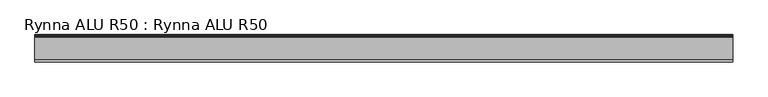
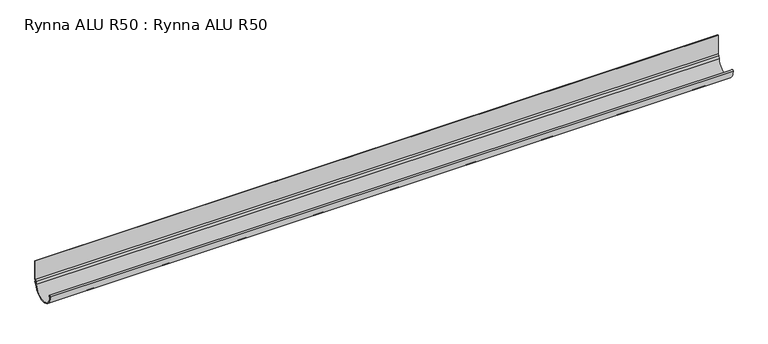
"""IFC4 building model written with IfcOpenShell, lengths in millimetres: proxy geometry, Rynna ALU R50 : Rynna ALU R50."""

import ifcopenshell
import ifcopenshell.guid

model = None  # the IFC model being written
_history = None  # IfcOwnerHistory: only IFC2X3 demands one
_inside = {}  # id of a spatial element -> (the spatial element, [elements in it])
_under = {}  # id of a project, library or spatial element -> (it, [spatial elements below it])
_declared = {}  # id of a project -> (the project, [libraries it declares])
_typed = {}  # id of a type object -> (the type object, [elements of that type])
_made_of = {}  # id of a material, layer set ... -> (it, [elements and type objects made of it])


def new_model(schema):
    """Start an empty IFC model of exactly this schema.

    Asked for "IFC4X3", IfcOpenShell would pick the latest addendum, in which some entities
    have other attributes; the version numbers below select the first issue.
    IFC2X3 requires an IfcOwnerHistory on every rooted entity: one is made here for all.
    """
    global model, _history
    if schema == "IFC4X3":
        model = ifcopenshell.file(schema_version=(4, 3, 0, 0))
    else:
        model = ifcopenshell.file(schema=schema)
    _inside.clear()
    _under.clear()
    _declared.clear()
    _typed.clear()
    _made_of.clear()
    _history = None
    if model.schema == "IFC2X3":
        org = make("IfcOrganization", Name="unknown")
        user = make(
            "IfcPersonAndOrganization",
            ThePerson=make("IfcPerson", FamilyName="unknown"),
            TheOrganization=org,
        )
        app = make(
            "IfcApplication",
            ApplicationDeveloper=org,
            Version="unknown",
            ApplicationFullName="unknown",
            ApplicationIdentifier="unknown",
        )
        _history = make(
            "IfcOwnerHistory",
            OwningUser=user,
            OwningApplication=app,
            ChangeAction="ADDED",
            CreationDate=0,
        )
    return model


def make(cls, **values):
    """One entity of the class cls with the attributes given. An attribute that is None is left unset."""
    return model.create_entity(
        cls, **{name: value for name, value in values.items() if value is not None}
    )


def rooted(cls, **values):
    """An entity with a GlobalId (a new one), such as an element, a storey or a relation."""
    return make(cls, GlobalId=ifcopenshell.guid.new(), OwnerHistory=_history, **values)


def si_unit(unit_type, name, prefix=None):
    """IfcSIUnit, for example si_unit("LENGTHUNIT", "METRE", prefix="MILLI")."""
    return make("IfcSIUnit", UnitType=unit_type, Prefix=prefix, Name=name)


def assignment(units):
    """IfcUnitAssignment: the units of a project."""
    return None if units is None else make("IfcUnitAssignment", Units=units)


def point(xyz):
    """IfcCartesianPoint."""
    return None if xyz is None else make("IfcCartesianPoint", Coordinates=xyz)


def direction(xyz):
    """IfcDirection."""
    return None if xyz is None else make("IfcDirection", DirectionRatios=xyz)


def frame(location, z_axis=None, x_axis=None):
    """IfcAxis2Placement3D, a coordinate frame: its origin and axes. An axis left out is left unset."""
    return make(
        "IfcAxis2Placement3D",
        Location=point(location),
        Axis=direction(z_axis),
        RefDirection=direction(x_axis),
    )


def frame_2d(location, x_axis=None):
    """IfcAxis2Placement2D, a coordinate frame in the plane: its origin and x axis."""
    return make(
        "IfcAxis2Placement2D", Location=point(location), RefDirection=direction(x_axis)
    )


def origin():
    """The frame at (0, 0, 0) with its axes left unset."""
    return frame((0.0, 0.0, 0.0))


def place(relative_to, where):
    """IfcLocalPlacement: puts the frame where relative to a parent placement (None: the world)."""
    return make(
        "IfcLocalPlacement", PlacementRelTo=relative_to, RelativePlacement=where
    )


def context(
    kind, dimensions, precision=None, world=None, true_north=None, identifier=None
):
    """IfcGeometricRepresentationContext, for example the 3D "Model" context."""
    return make(
        "IfcGeometricRepresentationContext",
        ContextIdentifier=identifier,
        ContextType=kind,
        CoordinateSpaceDimension=dimensions,
        Precision=precision,
        WorldCoordinateSystem=world,
        TrueNorth=true_north,
    )


def project(units=None, contexts=None):
    """IfcProject with its units and contexts."""
    return rooted(
        "IfcProject",
        Name="project",
        RepresentationContexts=contexts,
        UnitsInContext=assignment(units),
    )


def spatial(cls, under=None, at=None, **own):
    """A site, building, storey or space (cls), placed at a placement, below another one or the project."""
    s = rooted(cls, ObjectPlacement=at, **own)
    if under is not None:
        _under.setdefault(under.id(), (under, []))[1].append(s)
    return s


def polyline(points):
    """IfcPolyline through the points."""
    return make("IfcPolyline", Points=[point(p) for p in points])


def circle_curve(where, radius):
    """IfcCircle in the frame where."""
    return make("IfcCircle", Position=where, Radius=radius)


def trimmed(basis, trim1, trim2, sense, master):
    """IfcTrimmedCurve: the piece of a basis curve between two trims."""
    return make(
        "IfcTrimmedCurve",
        BasisCurve=basis,
        Trim1=trim1,
        Trim2=trim2,
        SenseAgreement=sense,
        MasterRepresentation=master,
    )


def segment(curve, same_sense, transition):
    """IfcCompositeCurveSegment."""
    return make(
        "IfcCompositeCurveSegment",
        Transition=transition,
        SameSense=same_sense,
        ParentCurve=curve,
    )


def composite_curve(segments, self_intersect=None):
    """IfcCompositeCurve: segments joined end to end."""
    return make("IfcCompositeCurve", Segments=segments, SelfIntersect=self_intersect)


def outline(outer, holes=None, kind="AREA"):
    """IfcArbitraryClosedProfileDef: a profile drawn as a closed curve; with holes, ...WithVoids."""
    if holes is None:
        return make("IfcArbitraryClosedProfileDef", ProfileType=kind, OuterCurve=outer)
    return make(
        "IfcArbitraryProfileDefWithVoids",
        ProfileType=kind,
        OuterCurve=outer,
        InnerCurves=holes,
    )


def extrude(swept, where, along, depth):
    """IfcExtrudedAreaSolid: the profile swept, set in the frame where, extruded along a direction by depth."""
    return make(
        "IfcExtrudedAreaSolid",
        SweptArea=swept,
        Position=where,
        ExtrudedDirection=direction(along),
        Depth=depth,
    )


def shape(context_of_items, identifier, shape_type, items):
    """IfcShapeRepresentation: the items that make up one representation, for example the "Body"."""
    return make(
        "IfcShapeRepresentation",
        ContextOfItems=context_of_items,
        RepresentationIdentifier=identifier,
        RepresentationType=shape_type,
        Items=items,
    )


def source(mapping_origin, context_of_items, identifier, shape_type, items):
    """IfcRepresentationMap: a shape defined once, which mapped items show again and again."""
    return make(
        "IfcRepresentationMap",
        MappingOrigin=mapping_origin,
        MappedRepresentation=shape(context_of_items, identifier, shape_type, items),
    )


def transform(
    local_origin,
    x_axis=None,
    y_axis=None,
    z_axis=None,
    scale=None,
    scale2=None,
    scale3=None,
    uniform=True,
):
    """IfcCartesianTransformationOperator3D, or its non-uniform kind. x_axis, y_axis, z_axis: its Axis1, 2, 3."""
    if uniform:
        return make(
            "IfcCartesianTransformationOperator3D",
            Axis1=direction(x_axis),
            Axis2=direction(y_axis),
            LocalOrigin=point(local_origin),
            Scale=scale,
            Axis3=direction(z_axis),
        )
    return make(
        "IfcCartesianTransformationOperator3DnonUniform",
        Axis1=direction(x_axis),
        Axis2=direction(y_axis),
        LocalOrigin=point(local_origin),
        Scale=scale,
        Axis3=direction(z_axis),
        Scale2=scale2,
        Scale3=scale3,
    )


def mapped(mapping_source, mapping_target):
    """IfcMappedItem: shows the shape of a source again, moved by a transform."""
    return make(
        "IfcMappedItem", MappingSource=mapping_source, MappingTarget=mapping_target
    )


def made_of(thing, what):
    """Note that an element or type object is made of a material, layer set ...; save() writes the relation."""
    if what is not None:
        _made_of.setdefault(what.id(), (what, []))[1].append(thing)
    return thing


def element(
    cls,
    number,
    at=None,
    inside=None,
    cuts=None,
    type_object=None,
    material=None,
    context=None,
    identifier="Body",
    shape_type=None,
    held_by="IfcProductDefinitionShape",
    body=None,
    shapes=None,
    **own,
):
    """One element of the class cls, such as IfcWall. Its Tag is "e" and its number.

    at: its placement. inside: the storey or other place that contains it. cuts: it is an
    opening in that element (IfcRelVoidsElement). A single representation is given by context,
    identifier, shape_type and body (its items); several are given by shapes. held_by: the class
    of the entity that holds the representations. save() writes the other relations.
    """
    e = rooted(cls, Tag="e%d" % number, ObjectPlacement=at, **own)
    if body is not None:
        shapes = [shape(context, identifier, shape_type, body)]
    if shapes is not None:
        e.Representation = make(held_by, Representations=shapes)
    if inside is not None:
        _inside.setdefault(inside.id(), (inside, []))[1].append(e)
    if cuts is not None:
        rooted(
            "IfcRelVoidsElement", RelatingBuildingElement=cuts, RelatedOpeningElement=e
        )
    if type_object is not None:
        _typed.setdefault(type_object.id(), (type_object, []))[1].append(e)
    return made_of(e, material)


def aggregate(whole, parts):
    """IfcRelAggregates: a whole, such as a stair, and the parts it consists of."""
    return rooted("IfcRelAggregates", RelatingObject=whole, RelatedObjects=parts)


def save(model, path):
    """Write the relations noted so far, then the file.

    IfcRelAggregates (storeys below a building ...), IfcRelContainedInSpatialStructure (elements
    in a storey), IfcRelDefinesByType, IfcRelAssociatesMaterial and IfcRelDeclares: one each for
    every whole, place, type object, material and project.
    """
    for whole, parts in _under.values():
        aggregate(whole, parts)
    for where, things in _inside.values():
        rooted(
            "IfcRelContainedInSpatialStructure",
            RelatedElements=things,
            RelatingStructure=where,
        )
    for kind, things in _typed.values():
        rooted("IfcRelDefinesByType", RelatedObjects=things, RelatingType=kind)
    for what, things in _made_of.values():
        rooted("IfcRelAssociatesMaterial", RelatedObjects=things, RelatingMaterial=what)
    for by, libraries in _declared.values():
        rooted("IfcRelDeclares", RelatingContext=by, RelatedDefinitions=libraries)
    model.write(path)


def rynna_alu_r50_rynna_alu_r50_d8eb1f83(model_context):
    return source(origin(), model_context, "Body", "SweptSolid", [
        extrude(outline(composite_curve([segment(polyline([(0.6978396, 0.0), (0.6978396, -39.5252625), (-1.8149767, -41.8701356), (-2.328284, -45.5225054), (0.9565767, -44.1281649), (0.1767814, -46.0765907), (-2.6292486, -47.6619658)]), True, "CONTINUOUS"), segment(trimmed(circle_curve(frame_2d((-27.3646611, -44.302303)), 24.9625312), [point((-2.6292486, -47.6619658))], [point((-52.3271923, -44.302303))], False, "CARTESIAN"), True, "CONTINUOUS"), segment(trimmed(circle_curve(frame_2d((-50.3771937, -44.3000011)), 1.95), [point((-52.3271923, -44.302303))], [point((-50.8512717, -46.1914952))], False, "CARTESIAN"), True, "CONTINUOUS"), segment(trimmed(circle_curve(frame_2d((-27.3646611, -44.302303)), 23.5624686), [point((-50.8512717, -46.1914952))], [point((-3.9370468, -46.8196069))], True, "CARTESIAN"), True, "CONTINUOUS"), segment(polyline([(-3.9370468, -46.8196069), (-3.0707013, -41.065916), (-0.7021617, -38.7702547), (-0.7021617, 0.0), (0.6978396, 0.0)]), True, "CONTINUOUS")], self_intersect=False)), frame((-680.0, 0.0, 0.0), z_axis=(1.0, 0.0, 0.0), x_axis=(0.0, 1.0, 0.0)), (0.0, 0.0, 1.0), 1360.0),
    ])


if __name__ == "__main__":
    model = new_model("IFC4")
    model_context = context("Model", 3, world=origin())
    ifc_project = project(units=[si_unit("LENGTHUNIT", "METRE", prefix="MILLI")], contexts=[model_context])
    site = spatial("IfcSite", under=ifc_project)
    building = spatial("IfcBuilding", under=site)
    placement = place(None, origin())
    rynna_alu_r50_rynna_alu_r50_shape = rynna_alu_r50_rynna_alu_r50_d8eb1f83(model_context)
    element("IfcBuildingElementProxy", 1, Name="Rynna ALU R50 : Rynna ALU R50", ObjectType="Rynna ALU R50 : Rynna ALU R50", at=placement, inside=building, context=model_context, shape_type="MappedRepresentation", body=[
        mapped(rynna_alu_r50_rynna_alu_r50_shape, transform((0.0, 0.0, 0.0), x_axis=(1.0, 0.0, 0.0), y_axis=(0.0, 1.0, 0.0), z_axis=(0.0, 0.0, 1.0))),
    ])
    save(model, "model.ifc")
